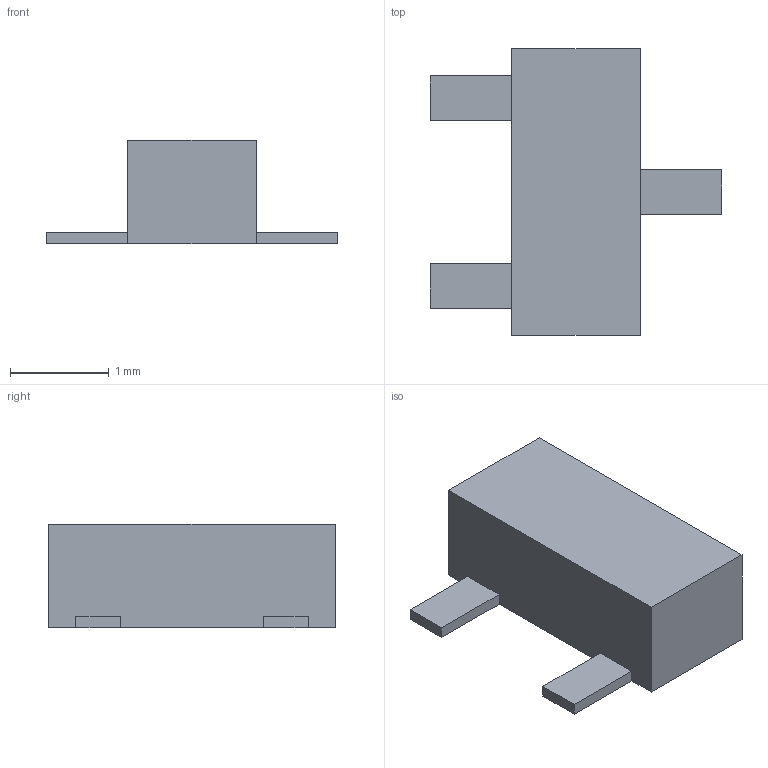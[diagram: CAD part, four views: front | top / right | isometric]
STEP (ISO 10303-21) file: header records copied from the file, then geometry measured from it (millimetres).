
FILE_DESCRIPTION(('Open CASCADE Model'),'2;1');
FILE_NAME('Open CASCADE Shape Model','2026-08-26T03:49:39',('Author'),( 'Open CASCADE'),'Open CASCADE STEP processor 7.9','Open CASCADE 7.9' ,'Unknown');
FILE_SCHEMA(('AUTOMOTIVE_DESIGN { 1 0 10303 214 1 1 1 1 }'));
Length unit declared in the file: millimetre
Products named in the file (1): Open CASCADE STEP translator 7.9 37
Bounding box: 2.95 x 2.9 x 1.05 mm (x, y, z)
Volume: 4.1 mm3; surface area: 19.2 mm2
Topology: 1 solids, 1 shells, 18 faces, 48 edges, 32 vertices
Faces by surface type: plane 18
Entity records: 1168 total; most frequent: CARTESIAN_POINT 213, DIRECTION 164, LINE 126, VECTOR 126, ORIENTED_EDGE 96, PCURVE 96, DEFINITIONAL_REPRESENTATION 96, EDGE_CURVE 48
